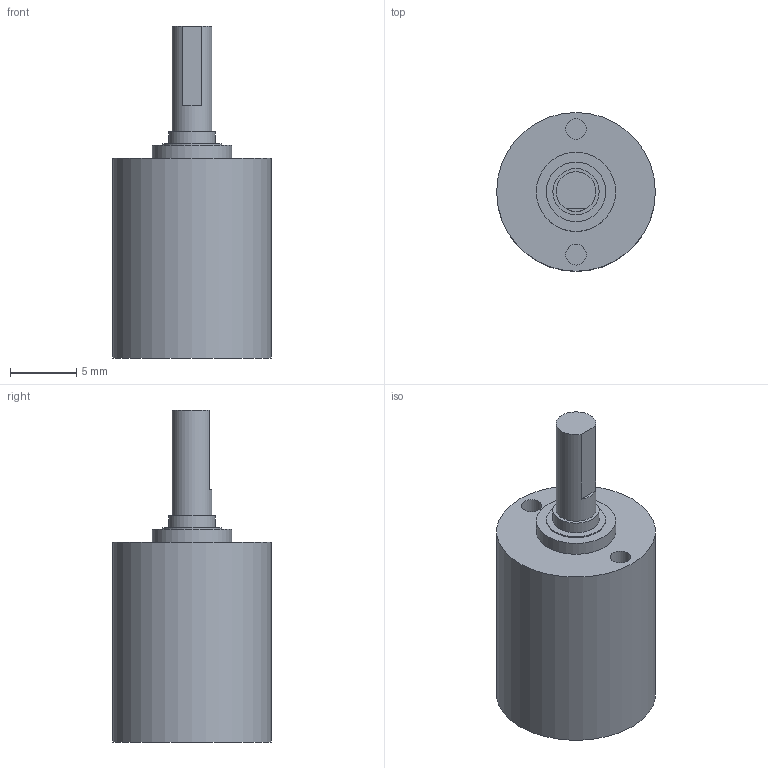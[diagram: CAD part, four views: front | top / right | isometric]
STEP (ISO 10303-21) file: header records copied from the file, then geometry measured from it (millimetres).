
FILE_DESCRIPTION((''),'2;1');
FILE_NAME('G:\Disegni\Progetti\D8500÷D8599\D8514\Riduttori\E - Riduttori STEP - SBZ\12_4K STEP\12_4K 1stage.stp','2012-05-24T15:50:30',('bonazzoli'),(''),'Autodesk Inventor 2012','Autodesk Inventor 2012','');
FILE_SCHEMA(('AUTOMOTIVE_DESIGN { 1 0 10303 214 1 1 1 1 }'));
Length unit declared in the file: millimetre
Products named in the file (1): 12_4K 1stage
Bounding box: 12 x 12 x 25.1 mm (x, y, z)
Volume: 1793.9 mm3; surface area: 920.3 mm2
Topology: 1 solids, 1 shells, 17 faces, 27 edges, 18 vertices
Faces by surface type: plane 10, cylinder 7
Full cylindrical faces by diameter (mm): 1.567 x2, 3 x1, 3.5 x1, 4.5 x1, 6 x1, 12 x1
Entity records: 378 total; most frequent: DIRECTION 70, CARTESIAN_POINT 54, ORIENTED_EDGE 38, AXIS2_PLACEMENT_3D 33, EDGE_LOOP 30, EDGE_CURVE 19, VERTEX_POINT 17, FACE_OUTER_BOUND 17
